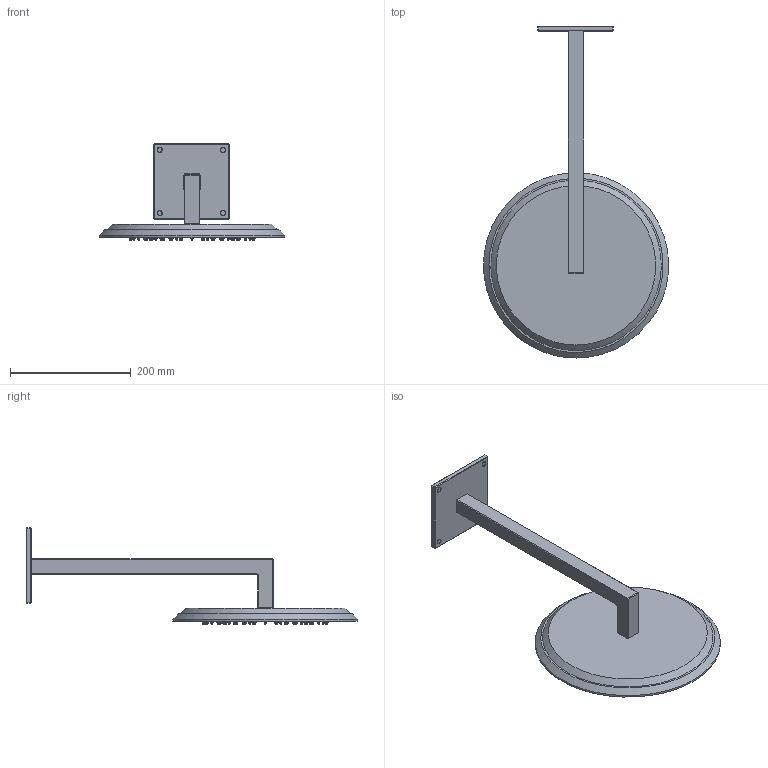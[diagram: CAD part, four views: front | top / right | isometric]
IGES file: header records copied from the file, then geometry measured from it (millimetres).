
Global section: file name: D:\Desktop\GIOVANNI\SCHEDE PRODOTTO\SOFFIONI\DECO SHOWER\3D\MOMA DESIGN_SOFFIONI_DECO SHOWER ROUND.igs; native system: Rhinoceros ( Jan 17 2018 ); preprocessor: Trout Lake IGES 012 Jan 17 2018; date: 230524.081928; units: millimetre
Bounding box: 306.76 x 549.87 x 160.14 mm (x, y, z)
Surface area: 247665 mm2 (no closed solid volume)
Topology: 0 solids, 0 shells, 1010 faces, 5021 edges, 4966 vertices
Faces by surface type: bspline 1010
